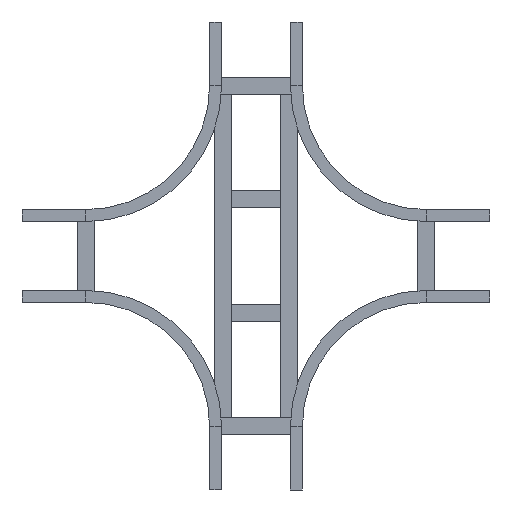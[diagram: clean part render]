
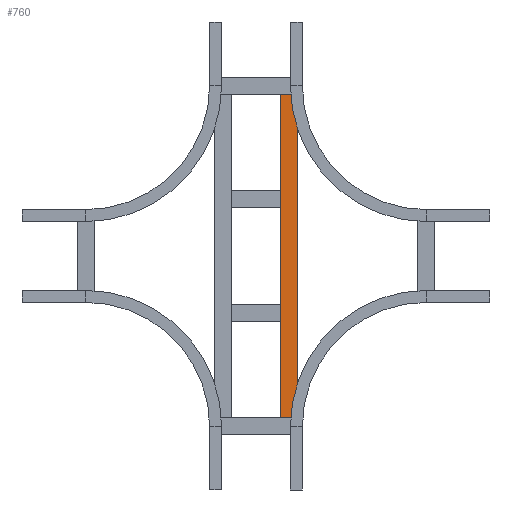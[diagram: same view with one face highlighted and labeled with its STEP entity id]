
A CAD part, front view. The second image highlights one B-rep face of the part: STEP entity #760.
In plain terms, the highlighted planar face has unit normal (0, -1, 0).
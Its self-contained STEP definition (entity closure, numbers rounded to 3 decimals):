
#113 = CARTESIAN_POINT ( 'NONE',  ( 379.75, 0., 20.25 ) ) ;
#177 = ORIENTED_EDGE ( 'NONE', *, *, #1838, .F. ) ;
#182 = LINE ( 'NONE', #2156, #772 ) ;
#226 = EDGE_CURVE ( 'NONE', #465, #1745, #1186, .T. ) ;
#251 = ORIENTED_EDGE ( 'NONE', *, *, #1050, .T. ) ;
#288 = PLANE ( 'NONE',  #1120 ) ;
#372 = LINE ( 'NONE', #1629, #872 ) ;
#465 = VERTEX_POINT ( 'NONE', #1238 ) ;
#488 = EDGE_CURVE ( 'NONE', #1007, #1745, #182, .T. ) ;
#720 = EDGE_LOOP ( 'NONE', ( #1181, #1068, #177, #251 ) ) ;
#760 = ADVANCED_FACE ( 'NONE', ( #1350 ), #288, .F. ) ;
#772 = VECTOR ( 'NONE', #1943, 1000. ) ;
#817 = CARTESIAN_POINT ( 'NONE',  ( 379.75, 0., 20.25 ) ) ;
#861 = CARTESIAN_POINT ( 'NONE',  ( 379.75, 0., -20.25 ) ) ;
#872 = VECTOR ( 'NONE', #1277, 1000. ) ;
#1007 = VERTEX_POINT ( 'NONE', #861 ) ;
#1050 = EDGE_CURVE ( 'NONE', #1622, #465, #372, .T. ) ;
#1068 = ORIENTED_EDGE ( 'NONE', *, *, #488, .F. ) ;
#1120 = AXIS2_PLACEMENT_3D ( 'NONE', #113, #1476, #1501 ) ;
#1155 = LINE ( 'NONE', #817, #1518 ) ;
#1181 = ORIENTED_EDGE ( 'NONE', *, *, #226, .T. ) ;
#1186 = LINE ( 'NONE', #1704, #1426 ) ;
#1196 = DIRECTION ( 'NONE',  ( 0., 0., -1. ) ) ;
#1238 = CARTESIAN_POINT ( 'NONE',  ( -379.75, 0., 20.25 ) ) ;
#1277 = DIRECTION ( 'NONE',  ( -1., 0., 0. ) ) ;
#1343 = CARTESIAN_POINT ( 'NONE',  ( 379.75, 0., 20.25 ) ) ;
#1350 = FACE_OUTER_BOUND ( 'NONE', #720, .T. ) ;
#1426 = VECTOR ( 'NONE', #1196, 1000. ) ;
#1476 = DIRECTION ( 'NONE',  ( 0., 1., 0. ) ) ;
#1501 = DIRECTION ( 'NONE',  ( 0., 0., 1. ) ) ;
#1503 = DIRECTION ( 'NONE',  ( 0., 0., -1. ) ) ;
#1518 = VECTOR ( 'NONE', #1503, 1000. ) ;
#1521 = CARTESIAN_POINT ( 'NONE',  ( -379.75, 0., -20.25 ) ) ;
#1622 = VERTEX_POINT ( 'NONE', #1343 ) ;
#1629 = CARTESIAN_POINT ( 'NONE',  ( 379.75, 0., 20.25 ) ) ;
#1704 = CARTESIAN_POINT ( 'NONE',  ( -379.75, 0., 20.25 ) ) ;
#1745 = VERTEX_POINT ( 'NONE', #1521 ) ;
#1838 = EDGE_CURVE ( 'NONE', #1622, #1007, #1155, .T. ) ;
#1943 = DIRECTION ( 'NONE',  ( -1., 0., 0. ) ) ;
#2156 = CARTESIAN_POINT ( 'NONE',  ( 379.75, 0., -20.25 ) ) ;
